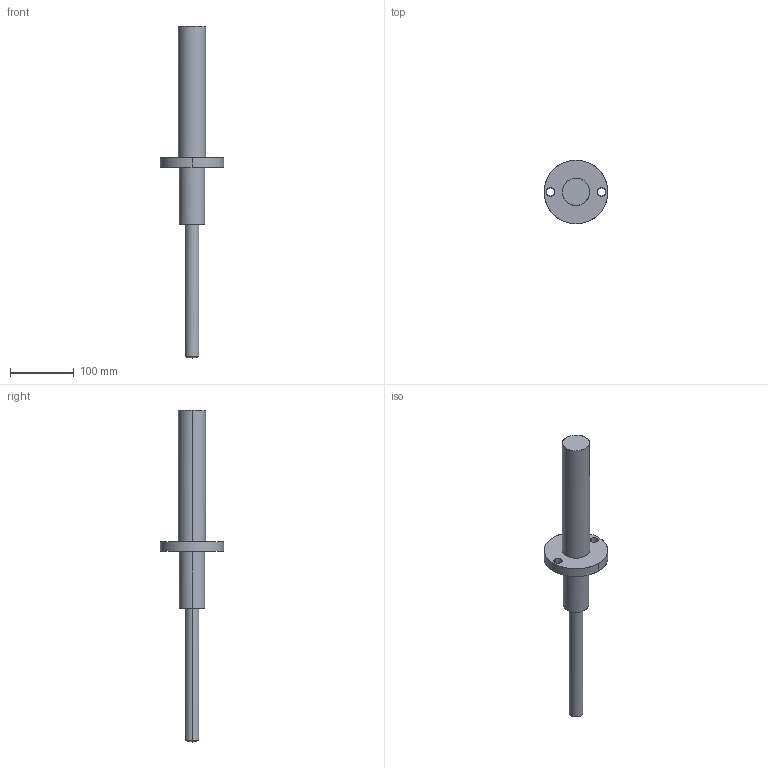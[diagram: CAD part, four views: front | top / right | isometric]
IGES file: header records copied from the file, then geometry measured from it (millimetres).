
Global section: file name: E:\UnigraphicsGraphicData\MISUMI_PRESS-PARTS\IGES\3d_paps200-90_01681_r00.igs; native system: NX V5.0; preprocessor: UGS NX IGES V5.0; author: MISUMI; date: 20110105.162223; units: millimetre
Bounding box: 100 x 100 x 522 mm (x, y, z)
Surface area: 79459.6 mm2 (no closed solid volume)
Topology: 0 solids, 0 shells, 22 faces, 232 edges, 230 vertices
Faces by surface type: bspline 22
